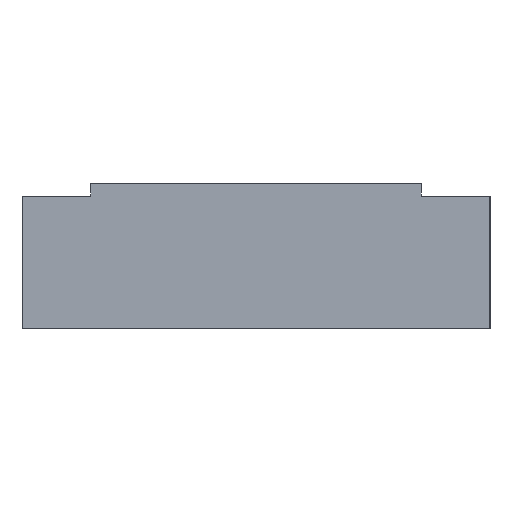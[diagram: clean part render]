
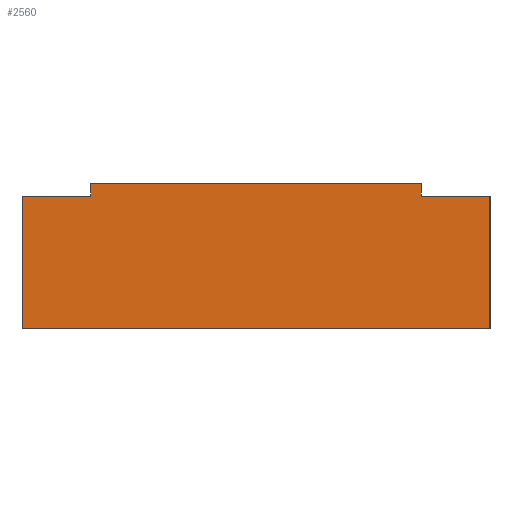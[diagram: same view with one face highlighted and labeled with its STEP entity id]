
A CAD part, left-side view. The second image highlights one B-rep face of the part: STEP entity #2560.
In plain terms, the highlighted planar face has unit normal (-1, 0, 0).
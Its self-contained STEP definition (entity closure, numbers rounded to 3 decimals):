
#14 = VERTEX_POINT ( 'NONE', #1739 ) ;
#31 = CARTESIAN_POINT ( 'NONE',  ( -88., -37.5, 21.2 ) ) ;
#40 = DIRECTION ( 'NONE',  ( 0., 1., 0. ) ) ;
#43 = CARTESIAN_POINT ( 'NONE',  ( -88., 37.5, 21.2 ) ) ;
#63 = CARTESIAN_POINT ( 'NONE',  ( -88., 26.5, 21.2 ) ) ;
#66 = DIRECTION ( 'NONE',  ( 0., -1., 0. ) ) ;
#172 = ORIENTED_EDGE ( 'NONE', *, *, #1346, .F. ) ;
#260 = CARTESIAN_POINT ( 'NONE',  ( -88., 37.5, 21.2 ) ) ;
#262 = PLANE ( 'NONE',  #1676 ) ;
#263 = LINE ( 'NONE', #1012, #1472 ) ;
#323 = LINE ( 'NONE', #31, #866 ) ;
#331 = VERTEX_POINT ( 'NONE', #1099 ) ;
#335 = ORIENTED_EDGE ( 'NONE', *, *, #2531, .F. ) ;
#422 = EDGE_CURVE ( 'NONE', #1762, #563, #1611, .T. ) ;
#535 = LINE ( 'NONE', #2134, #2199 ) ;
#541 = CARTESIAN_POINT ( 'NONE',  ( -88., 26.5, 23.2 ) ) ;
#563 = VERTEX_POINT ( 'NONE', #63 ) ;
#618 = VERTEX_POINT ( 'NONE', #1836 ) ;
#625 = VECTOR ( 'NONE', #711, 1000. ) ;
#632 = EDGE_CURVE ( 'NONE', #14, #2295, #263, .T. ) ;
#664 = DIRECTION ( 'NONE',  ( 0., 0., -1. ) ) ;
#695 = DIRECTION ( 'NONE',  ( 0., 0., -1. ) ) ;
#706 = EDGE_CURVE ( 'NONE', #1164, #1613, #2337, .T. ) ;
#711 = DIRECTION ( 'NONE',  ( 0., 0., -1. ) ) ;
#758 = DIRECTION ( 'NONE',  ( 0., -1., 0. ) ) ;
#841 = ORIENTED_EDGE ( 'NONE', *, *, #706, .T. ) ;
#866 = VECTOR ( 'NONE', #1264, 1000. ) ;
#884 = EDGE_LOOP ( 'NONE', ( #841, #1468, #2556, #335, #172, #1223, #1922, #1552 ) ) ;
#989 = VECTOR ( 'NONE', #695, 1000. ) ;
#1012 = CARTESIAN_POINT ( 'NONE',  ( -88., 37.5, 21.2 ) ) ;
#1045 = VECTOR ( 'NONE', #758, 1000. ) ;
#1091 = DIRECTION ( 'NONE',  ( 0., -1., 0. ) ) ;
#1099 = CARTESIAN_POINT ( 'NONE',  ( -88., -26.5, 23.2 ) ) ;
#1164 = VERTEX_POINT ( 'NONE', #1521 ) ;
#1196 = VECTOR ( 'NONE', #1091, 1000. ) ;
#1223 = ORIENTED_EDGE ( 'NONE', *, *, #1555, .T. ) ;
#1261 = LINE ( 'NONE', #541, #625 ) ;
#1264 = DIRECTION ( 'NONE',  ( 0., 0., -1. ) ) ;
#1293 = CARTESIAN_POINT ( 'NONE',  ( -88., -26.5, 23.2 ) ) ;
#1312 = CARTESIAN_POINT ( 'NONE',  ( -88., 37.5, 21.2 ) ) ;
#1346 = EDGE_CURVE ( 'NONE', #618, #331, #1511, .T. ) ;
#1406 = EDGE_CURVE ( 'NONE', #1762, #1164, #535, .T. ) ;
#1414 = FACE_OUTER_BOUND ( 'NONE', #884, .T. ) ;
#1468 = ORIENTED_EDGE ( 'NONE', *, *, #2445, .F. ) ;
#1472 = VECTOR ( 'NONE', #2038, 1000. ) ;
#1511 = LINE ( 'NONE', #2314, #2120 ) ;
#1521 = CARTESIAN_POINT ( 'NONE',  ( -88., 37.5, 0. ) ) ;
#1552 = ORIENTED_EDGE ( 'NONE', *, *, #1406, .T. ) ;
#1555 = EDGE_CURVE ( 'NONE', #618, #563, #1261, .T. ) ;
#1611 = LINE ( 'NONE', #43, #1196 ) ;
#1613 = VERTEX_POINT ( 'NONE', #2168 ) ;
#1676 = AXIS2_PLACEMENT_3D ( 'NONE', #1312, #2111, #40 ) ;
#1685 = LINE ( 'NONE', #1293, #989 ) ;
#1739 = CARTESIAN_POINT ( 'NONE',  ( -88., -26.5, 21.2 ) ) ;
#1762 = VERTEX_POINT ( 'NONE', #260 ) ;
#1836 = CARTESIAN_POINT ( 'NONE',  ( -88., 26.5, 23.2 ) ) ;
#1922 = ORIENTED_EDGE ( 'NONE', *, *, #422, .F. ) ;
#2038 = DIRECTION ( 'NONE',  ( 0., -1., 0. ) ) ;
#2111 = DIRECTION ( 'NONE',  ( 1., 0., 0. ) ) ;
#2120 = VECTOR ( 'NONE', #66, 1000. ) ;
#2134 = CARTESIAN_POINT ( 'NONE',  ( -88., 37.5, 21.2 ) ) ;
#2168 = CARTESIAN_POINT ( 'NONE',  ( -88., -37.5, 0. ) ) ;
#2199 = VECTOR ( 'NONE', #664, 1000. ) ;
#2295 = VERTEX_POINT ( 'NONE', #2450 ) ;
#2314 = CARTESIAN_POINT ( 'NONE',  ( -88., 26.5, 23.2 ) ) ;
#2337 = LINE ( 'NONE', #2411, #1045 ) ;
#2411 = CARTESIAN_POINT ( 'NONE',  ( -88., 37.5, 0. ) ) ;
#2445 = EDGE_CURVE ( 'NONE', #2295, #1613, #323, .T. ) ;
#2450 = CARTESIAN_POINT ( 'NONE',  ( -88., -37.5, 21.2 ) ) ;
#2531 = EDGE_CURVE ( 'NONE', #331, #14, #1685, .T. ) ;
#2556 = ORIENTED_EDGE ( 'NONE', *, *, #632, .F. ) ;
#2560 = ADVANCED_FACE ( 'NONE', ( #1414 ), #262, .F. ) ;
